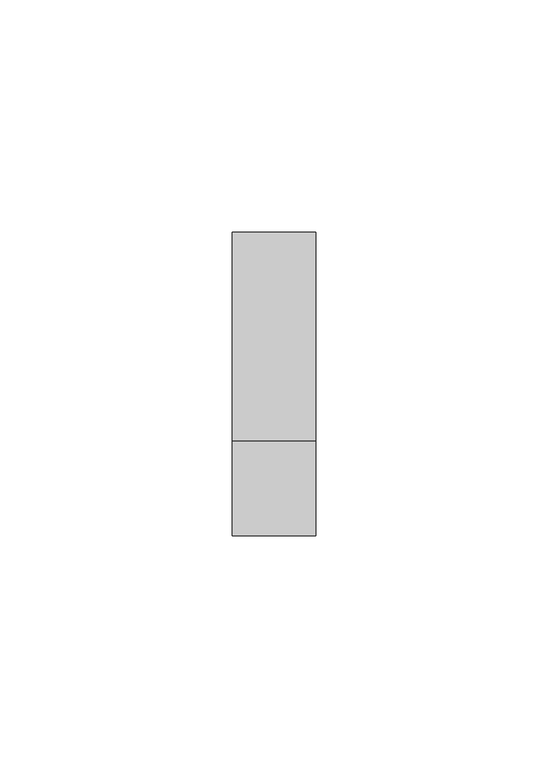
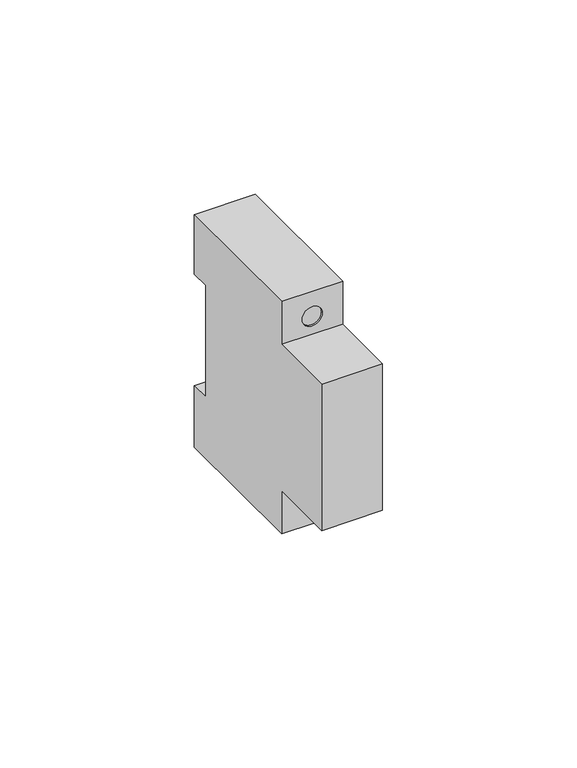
"""IFC4 building model written with IfcOpenShell, lengths in millimetres: proxy geometry, TDM_РЕЛЕ КОНТРОЛЯ НАПРЯЖЕНИЯ СЕРИИ АЗМ-1М : 63А."""

from ifc_helpers import new_model, si_unit, frame, origin, place, context, project, spatial, polyline, circle_curve, outline, extrude, source, transform, mapped, element, save
from ifc_brep_helpers import plane_surface, revolved_surface, advanced_brep


def electrical_equipment_60f263af(model_context):
    return source(origin(), model_context, "Body", "SolidModel", [
        extrude(outline(polyline([(8.0, 16.6821204), (8.0, -6.6015331), (-8.0, -6.6015331), (-8.0, 16.6821204), (8.0, 16.6821204)])), frame((0.0, 0.0, -35.0), z_axis=(0.0, 0.0, 1.0), x_axis=(1.0, 0.0, 0.0)), (0.0, 0.0, 1.0), 69.8255916),
        advanced_brep(
        [(9.0, 31.7632568, 17.7057143), (9.0, 37.5, 17.7057143), (9.0, 37.5, 36.5), (9.0, -7.5, 36.5), (9.0, -7.5, 23.0), (9.0, -28.0, 23.0), (9.0, -28.0, -23.0), (9.0, -7.5, -23.0), (9.0, -7.5, -36.5), (9.0, 37.5, -36.5), (9.0, 37.5, -17.2942857), (9.0, 31.7632568, -17.2942857), (-9.0, 31.7632568, 17.7057143), (-9.0, 31.7632568, -17.2942857), (-9.0, 37.5, -17.2942857), (-9.0, 37.5, -36.5), (-9.0, -7.5, -36.5), (-9.0, -7.5, -23.0), (-9.0, -28.0, -23.0), (-9.0, -28.0, 23.0), (-9.0, -7.5, 23.0), (-9.0, -7.5, 36.5), (-9.0, 37.5, 36.5), (-9.0, 37.5, 17.7057143), (-3.0, -5.6987922, 28.6903679), (3.0, -5.6987922, 28.6903679), (-3.0, -5.6987922, -28.6903679), (3.0, -5.6987922, -28.6903679), (-3.0, -7.5, 28.6903679), (3.0, -7.5, 28.6903679), (3.0, -7.5, -28.6903679), (-3.0, -7.5, -28.6903679)],
        [
            (0, 1),
            (1, 2),
            (2, 3),
            (3, 4),
            (4, 5),
            (5, 6),
            (6, 7),
            (7, 8),
            (8, 9),
            (9, 10),
            (10, 11),
            (11, 0),
            (12, 13),
            (13, 14),
            (14, 15),
            (15, 16),
            (16, 17),
            (17, 18),
            (18, 19),
            (19, 20),
            (20, 21),
            (21, 22),
            (22, 23),
            (23, 12),
            (0, 12),
            (23, 1),
            (22, 2),
            (9, 15),
            (14, 10),
            (13, 11),
            (24, 25, circle_curve(frame((0.0, -5.6987922, 28.6903679), z_axis=(0.0, -1.0, 0.0), x_axis=(1.0, 0.0, 0.0)), 3.0)),
            (25, 24, circle_curve(frame((0.0, -5.6987922, 28.6903679), z_axis=(0.0, -1.0, 0.0), x_axis=(1.0, 0.0, 0.0)), 3.0)),
            (26, 27, circle_curve(frame((0.0, -5.6987922, -28.6903679), z_axis=(0.0, -1.0, 0.0), x_axis=(1.0, 0.0, 0.0)), 3.0)),
            (27, 26, circle_curve(frame((0.0, -5.6987922, -28.6903679), z_axis=(0.0, -1.0, 0.0), x_axis=(1.0, 0.0, 0.0)), 3.0)),
            (4, 20),
            (19, 5),
            (18, 6),
            (24, 28),
            (28, 29, circle_curve(frame((0.0, -7.5, 28.6903679), z_axis=(0.0, -1.0, 0.0), x_axis=(1.0, 0.0, 0.0)), 3.0)),
            (29, 25),
            (29, 28, circle_curve(frame((0.0, -7.5, 28.6903679), z_axis=(0.0, -1.0, 0.0), x_axis=(1.0, 0.0, 0.0)), 3.0)),
            (21, 3),
            (17, 7),
            (16, 8),
            (30, 31, circle_curve(frame((0.0, -7.5, -28.6903679), z_axis=(0.0, 1.0, 0.0), x_axis=(1.0, 0.0, 0.0)), 3.0)),
            (31, 30, circle_curve(frame((0.0, -7.5, -28.6903679), z_axis=(0.0, 1.0, 0.0), x_axis=(1.0, 0.0, 0.0)), 3.0)),
            (26, 31),
            (30, 27),
        ],
        [
            plane_surface(frame((9.0, 31.7632568, 17.7057143), z_axis=(1.0, 0.0, 0.0), x_axis=(0.0, 1.0, 0.0))),
            plane_surface(frame((-9.0, 31.7632568, 17.7057143), z_axis=(-1.0, 0.0, 0.0), x_axis=(0.0, -1.0, 0.0))),
            plane_surface(frame((9.0, 31.7632568, 17.7057143), z_axis=(0.0, 0.0, -1.0), x_axis=(-1.0, 0.0, 0.0))),
            plane_surface(frame((9.0, 37.5, 17.7057143), z_axis=(0.0, 1.0, 0.0), x_axis=(-1.0, 0.0, 0.0))),
            plane_surface(frame((9.0, 37.5, -36.5), z_axis=(0.0, 1.0, 0.0), x_axis=(-1.0, 0.0, 0.0))),
            plane_surface(frame((9.0, 37.5, -17.2942857), z_axis=(0.0, 0.0, 1.0), x_axis=(-1.0, 0.0, 0.0))),
            plane_surface(frame((9.0, 31.7632568, -17.2942857), z_axis=(0.0, 1.0, 0.0), x_axis=(-1.0, 0.0, 0.0))),
            plane_surface(frame((3.0, -5.6987922, 28.6903679), z_axis=(0.0, -1.0, 0.0), x_axis=(0.0, 0.0, -1.0))),
            plane_surface(frame((9.0, -7.5, 23.0), z_axis=(0.0, 0.0, 1.0), x_axis=(-1.0, 0.0, 0.0))),
            plane_surface(frame((9.0, -28.0, 23.0), z_axis=(0.0, -1.0, 0.0), x_axis=(-1.0, 0.0, 0.0))),
            revolved_surface(polyline([(3.0, -7.5, 28.6903679), (3.0, -5.6987922, 28.6903679)]), (0.0, -5.6987922, 28.6903679), (0.0, -1.0, 0.0)),
            plane_surface(frame((9.0, 37.5, 36.5), z_axis=(0.0, 0.0, 1.0), x_axis=(-1.0, 0.0, 0.0))),
            plane_surface(frame((9.0, -7.5, 36.5), z_axis=(0.0, -1.0, 0.0), x_axis=(-1.0, 0.0, 0.0))),
            plane_surface(frame((9.0, -28.0, -23.0), z_axis=(0.0, 0.0, -1.0), x_axis=(-1.0, 0.0, 0.0))),
            plane_surface(frame((9.0, -7.5, -23.0), z_axis=(0.0, -1.0, 0.0), x_axis=(-1.0, 0.0, 0.0))),
            plane_surface(frame((9.0, -7.5, -36.5), z_axis=(0.0, 0.0, -1.0), x_axis=(-1.0, 0.0, 0.0))),
            revolved_surface(polyline([(3.0, -7.5, -28.6903679), (3.0, -5.6987922, -28.6903679)]), (0.0, 0.0, -28.6903679), (0.0, -1.0, 0.0)),
        ],
        [
            (0, [[1, 2, 3, 4, 5, 6, 7, 8, 9, 10, 11, 12]]),
            (1, [[13, 14, 15, 16, 17, 18, 19, 20, 21, 22, 23, 24]]),
            (2, [[-1, 25, -24, 26]]),
            (3, [[-2, -26, -23, 27]]),
            (4, [[-10, 28, -15, 29]]),
            (5, [[-11, -29, -14, 30]]),
            (6, [[-12, -30, -13, -25]]),
            (7, [[31, 32]]),
            (7, [[33, 34]]),
            (8, [[-5, 35, -20, 36]]),
            (9, [[-6, -36, -19, 37]]),
            (10, [[-31, 38, 39, 40]]),
            (10, [[-32, -40, 41, -38]]),
            (11, [[-3, -27, -22, 42]]),
            (12, [[-4, -42, -21, -35], [-39, -41]]),
            (13, [[-7, -37, -18, 43]]),
            (14, [[-8, -43, -17, 44], [45, 46]]),
            (15, [[-9, -44, -16, -28]]),
            (16, [[-33, 47, -45, 48]]),
            (16, [[-34, -48, -46, -47]]),
        ],
    ),
    ])


if __name__ == "__main__":
    model = new_model("IFC4")
    model_context = context("Model", 3, world=origin())
    ifc_project = project(units=[si_unit("LENGTHUNIT", "METRE", prefix="MILLI")], contexts=[model_context])
    site = spatial("IfcSite", under=ifc_project)
    building = spatial("IfcBuilding", under=site)
    placement = place(None, origin())
    electrical_equipment_shape = electrical_equipment_60f263af(model_context)
    element("IfcBuildingElementProxy", 1, Name="TDM_РЕЛЕ КОНТРОЛЯ НАПРЯЖЕНИЯ СЕРИИ АЗМ-1М : 63А", ObjectType="TDM_РЕЛЕ КОНТРОЛЯ НАПРЯЖЕНИЯ СЕРИИ АЗМ-1М : 63А", at=placement, inside=building, context=model_context, shape_type="MappedRepresentation", body=[
        mapped(electrical_equipment_shape, transform((0.0, 0.0, 0.0), x_axis=(1.0, 0.0, 0.0), y_axis=(0.0, 1.0, 0.0), z_axis=(0.0, 0.0, 1.0))),
    ])
    save(model, "model.ifc")
